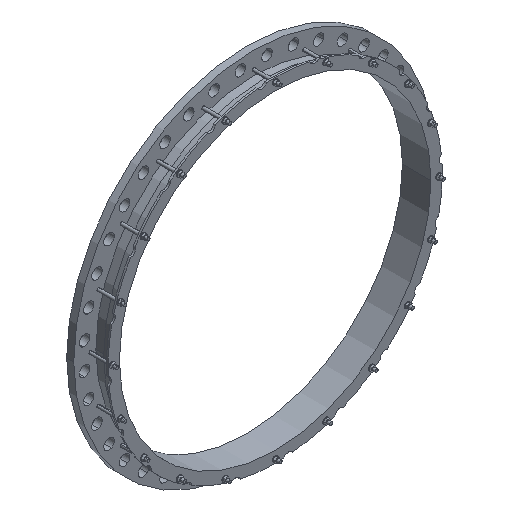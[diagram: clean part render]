
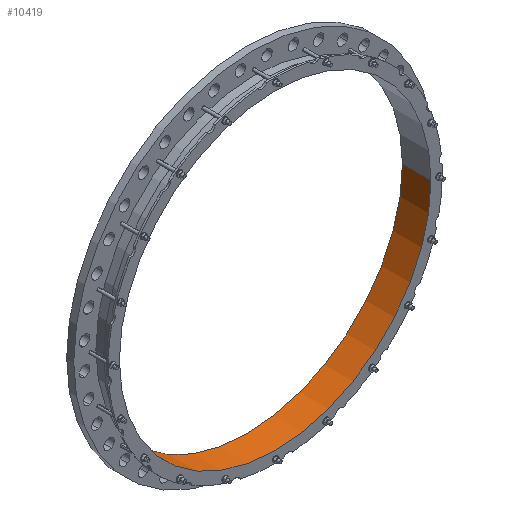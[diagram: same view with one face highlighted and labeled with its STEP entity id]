
A CAD part, isometric view. The second image highlights one B-rep face of the part: STEP entity #10419.
In plain terms, the highlighted cylindrical face has radius 835.25 mm (diameter 1670.5 mm), a partial arc.
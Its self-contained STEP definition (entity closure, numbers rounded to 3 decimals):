
#7=CARTESIAN_POINT('',(0.,38.,0.));
#8=DIRECTION('',(0.,1.,0.));
#9=DIRECTION('',(1.,0.,0.));
#10=AXIS2_PLACEMENT_3D('',#7,#8,#9);
#4301=CARTESIAN_POINT('',(0.,-115.,0.));
#4302=DIRECTION('',(0.,1.,0.));
#4303=DIRECTION('',(1.,0.,0.));
#4304=AXIS2_PLACEMENT_3D('',#4301,#4302,#4303);
#4306=DIRECTION('',(0.,1.,0.));
#4307=VECTOR('',#4306,153.);
#4308=CARTESIAN_POINT('',(835.25,-115.,0.));
#4309=LINE('',#4308,#4307);
#4310=DIRECTION('',(0.,1.,0.));
#4311=VECTOR('',#4310,153.);
#4312=CARTESIAN_POINT('',(-835.25,-115.,0.));
#4313=LINE('',#4312,#4311);
#7286=CARTESIAN_POINT('',(835.25,-115.,0.));
#7287=CARTESIAN_POINT('',(835.25,38.,0.));
#7288=VERTEX_POINT('',#7286);
#7289=VERTEX_POINT('',#7287);
#7294=CARTESIAN_POINT('',(-835.25,-115.,0.));
#7295=CARTESIAN_POINT('',(-835.25,38.,0.));
#7296=VERTEX_POINT('',#7294);
#7297=VERTEX_POINT('',#7295);
#10406=CARTESIAN_POINT('',(0.,-122.65,0.));
#10407=DIRECTION('',(0.,1.,0.));
#10408=DIRECTION('',(-1.,0.,0.));
#10409=AXIS2_PLACEMENT_3D('',#10406,#10407,#10408);
#10410=CYLINDRICAL_SURFACE('',#10409,835.25);
#10412=ORIENTED_EDGE('',*,*,#10411,.F.);
#10413=ORIENTED_EDGE('',*,*,#10399,.T.);
#10415=ORIENTED_EDGE('',*,*,#10414,.T.);
#10416=ORIENTED_EDGE('',*,*,#8793,.F.);
#10417=EDGE_LOOP('',(#10412,#10413,#10415,#10416));
#10418=FACE_OUTER_BOUND('',#10417,.F.);
#10419=ADVANCED_FACE('',(#10418),#10410,.F.);
#11=CIRCLE('',#10,835.25);
#4305=CIRCLE('',#4304,835.25);
#8793=EDGE_CURVE('',#7289,#7297,#11,.T.);
#10399=EDGE_CURVE('',#7288,#7296,#4305,.T.);
#10411=EDGE_CURVE('',#7288,#7289,#4309,.T.);
#10414=EDGE_CURVE('',#7296,#7297,#4313,.T.);
